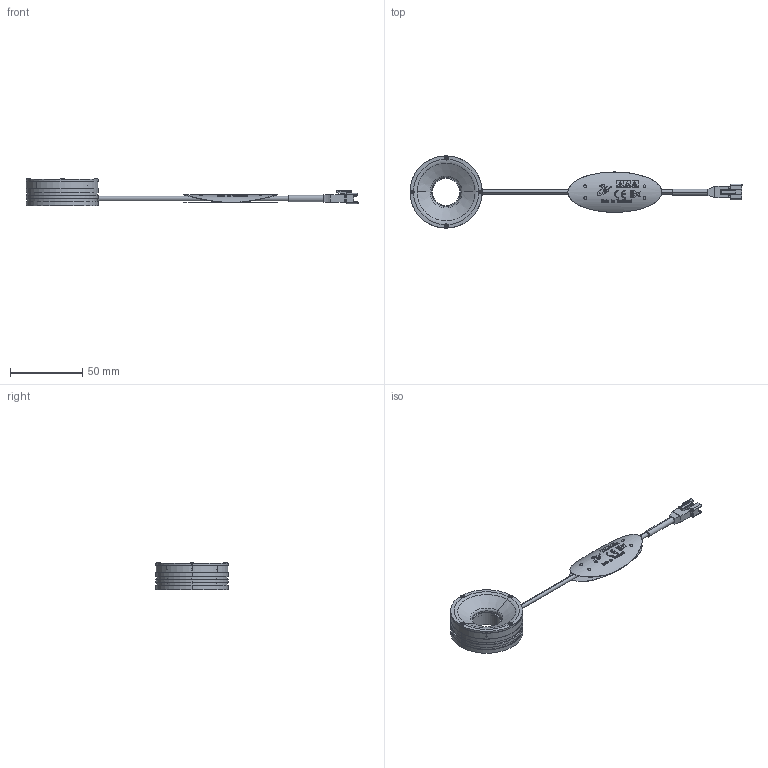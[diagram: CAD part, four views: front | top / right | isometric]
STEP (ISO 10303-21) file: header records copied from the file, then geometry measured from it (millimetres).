
FILE_DESCRIPTION(('STEP AP214'),'1');
FILE_NAME('VMR-5090_DRAWING_3D.step','2023-09-13T00:52:49',(' '),(' '),'Spatial InterOp 3D',' ',' ');
FILE_SCHEMA(('AUTOMOTIVE_DESIGN { 1 0 10303 214 1 1 1 1 }'));
Length unit declared in the file: millimetre
Products named in the file (11): 3P; CABEL TAG (VS); BASE_50; SIDE COVER_50; DIFFUSER_50; REFLECTOR; R7M-1; INSULOK; MXB6684; MXB4788
Assembly tree (20 placements, depth 2):
  (unnamed)
    3P
    CABEL TAG (VS)
    BASE_50
    SIDE COVER_50
    DIFFUSER_50
    REFLECTOR
    R7M-1
    INSULOK
    MXB6684  x8
    MXB4788  x4
Bounding box: 230 x 50 x 19 mm (x, y, z)
Volume: 23041 mm3; surface area: 28601.9 mm2
Topology: 54 solids, 55 shells, 855 faces, 2313 edges, 1593 vertices
Faces by surface type: plane 397, cylinder 345, torus 61, cone 46, bspline 6
Entity records: 27088 total; most frequent: CARTESIAN_POINT 5962, ORIENTED_EDGE 3506, DIRECTION 3155, EDGE_CURVE 1753, VERTEX_POINT 1253, AXIS2_PLACEMENT_3D 1139, LINE 877, VECTOR 877
